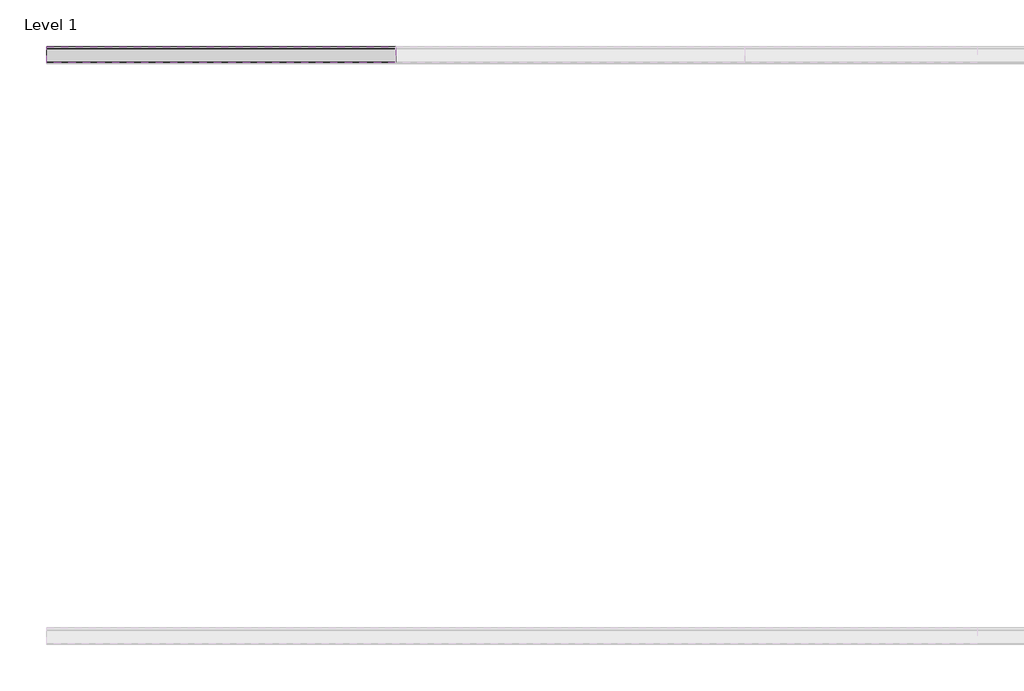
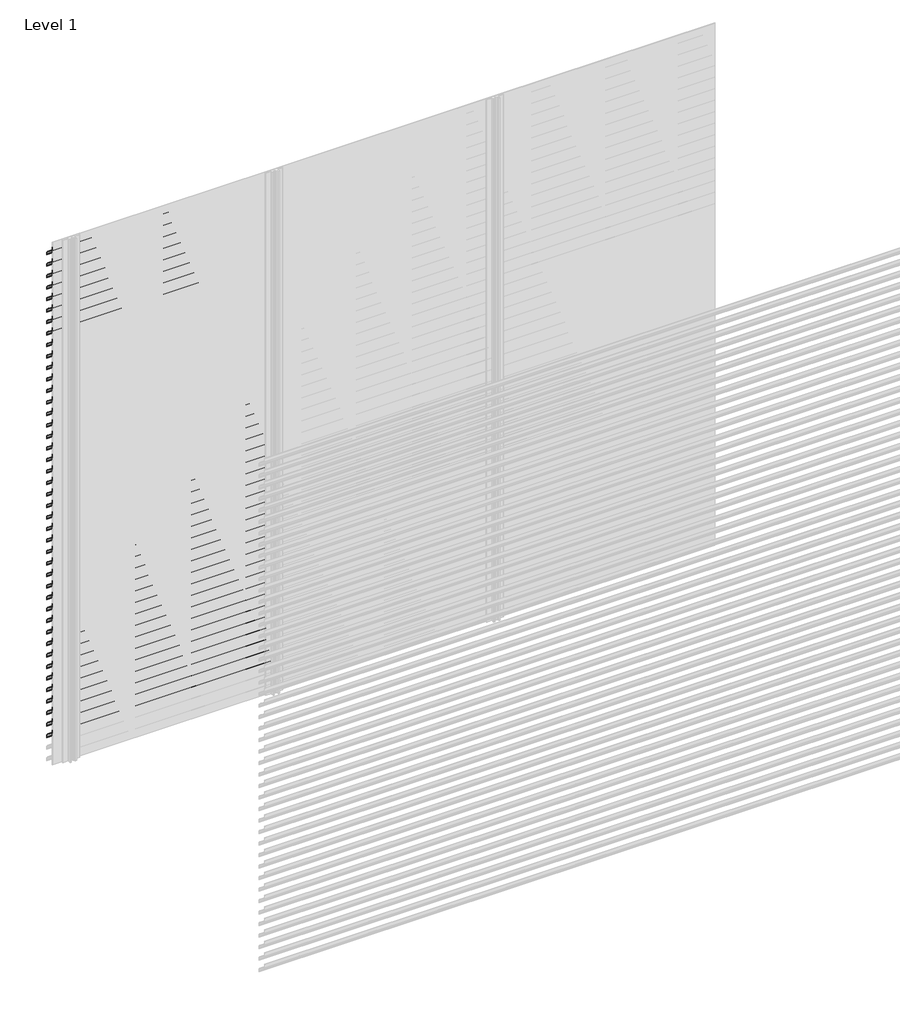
# One storey, part 118 of 540: 43 proxies.
"""IFC4 building model written with IfcOpenShell, lengths in millimetres."""

from ifc_helpers import new_model, si_unit, point, frame, frame_2d, origin, place, context, project, spatial, polyline, circle_curve, trimmed, segment, composite_curve, outline, extrude, element, save

model = new_model("IFC4")

# Units and contexts
model_context = context("Model", 3, world=origin())
ifc_project = project(units=[si_unit("LENGTHUNIT", "METRE", prefix="MILLI")], contexts=[model_context])

# Site, building, storey
site = spatial("IfcSite", under=ifc_project)
building = spatial("IfcBuilding", under=site)
storey = spatial("IfcBuildingStorey", under=building, Name="Level 1", Elevation=0.0)

# Proxies
placement = place(None, origin())
element("IfcBuildingElementProxy", 1, Name="Wall Sweeps", at=placement, inside=storey, context=model_context, shape_type="SweptSolid", body=[
    extrude(outline(composite_curve([segment(trimmed(circle_curve(frame_2d((7017.5825412, 2899.7676769)), 26.4944656), [point((7034.5447587, 2920.1205608))], [point((7044.0270068, 2901.3946208))], False, "CARTESIAN"), True, "CONTINUOUS"), segment(polyline([(7044.0270068, 2901.3946208), (7044.0270068, 2893.5), (7042.7770068, 2894.2216933), (7042.7770068, 2899.7676769)]), True, "CONTINUOUS"), segment(trimmed(circle_curve(frame_2d((7017.5825412, 2899.7676769)), 25.1944656), [point((7042.7770068, 2899.7676769))], [point((7033.7545017, 2919.086807))], True, "CARTESIAN"), True, "CONTINUOUS"), segment(polyline([(7033.7545017, 2919.086807), (6989.0270068, 2950.3158044), (6989.0270068, 2970.0), (6990.2770068, 2970.0), (6990.2770068, 2951.0285629), (7034.5447587, 2920.1205608)]), True, "CONTINUOUS")], self_intersect=False)), frame((89466.6208097, 0.0, 0.0), z_axis=(1.0, 0.0, 0.0), x_axis=(0.0, 1.0, 0.0)), (0.0, 0.0, 1.0), 1200.0000002),
])
element("IfcBuildingElementProxy", 2, Name="Wall Sweeps", at=placement, inside=storey, context=model_context, shape_type="SweptSolid", body=[
    extrude(outline(composite_curve([segment(trimmed(circle_curve(frame_2d((7017.5825412, 2833.7676769)), 26.4944656), [point((7034.5447587, 2854.1205608))], [point((7044.0270068, 2835.3946208))], False, "CARTESIAN"), True, "CONTINUOUS"), segment(polyline([(7044.0270068, 2835.3946208), (7044.0270068, 2827.5), (7042.7770068, 2828.2216933), (7042.7770068, 2833.7676769)]), True, "CONTINUOUS"), segment(trimmed(circle_curve(frame_2d((7017.5825412, 2833.7676769)), 25.1944656), [point((7042.7770068, 2833.7676769))], [point((7033.7545017, 2853.086807))], True, "CARTESIAN"), True, "CONTINUOUS"), segment(polyline([(7033.7545017, 2853.086807), (6989.0270068, 2884.3158044), (6989.0270068, 2904.0), (6990.2770068, 2904.0), (6990.2770068, 2885.0285629), (7034.5447587, 2854.1205608)]), True, "CONTINUOUS")], self_intersect=False)), frame((89466.6208097, 0.0, 0.0), z_axis=(1.0, 0.0, 0.0), x_axis=(0.0, 1.0, 0.0)), (0.0, 0.0, 1.0), 1200.0000002),
])
element("IfcBuildingElementProxy", 3, Name="Wall Sweeps", at=placement, inside=storey, context=model_context, shape_type="SweptSolid", body=[
    extrude(outline(composite_curve([segment(trimmed(circle_curve(frame_2d((7017.5825412, 2767.7676769)), 26.4944656), [point((7034.5447587, 2788.1205608))], [point((7044.0270068, 2769.3946208))], False, "CARTESIAN"), True, "CONTINUOUS"), segment(polyline([(7044.0270068, 2769.3946208), (7044.0270068, 2761.5), (7042.7770068, 2762.2216933), (7042.7770068, 2767.7676769)]), True, "CONTINUOUS"), segment(trimmed(circle_curve(frame_2d((7017.5825412, 2767.7676769)), 25.1944656), [point((7042.7770068, 2767.7676769))], [point((7033.7545017, 2787.086807))], True, "CARTESIAN"), True, "CONTINUOUS"), segment(polyline([(7033.7545017, 2787.086807), (6989.0270068, 2818.3158044), (6989.0270068, 2838.0), (6990.2770068, 2838.0), (6990.2770068, 2819.0285629), (7034.5447587, 2788.1205608)]), True, "CONTINUOUS")], self_intersect=False)), frame((89466.6208097, 0.0, 0.0), z_axis=(1.0, 0.0, 0.0), x_axis=(0.0, 1.0, 0.0)), (0.0, 0.0, 1.0), 1200.0000002),
])
element("IfcBuildingElementProxy", 4, Name="Wall Sweeps", at=placement, inside=storey, context=model_context, shape_type="SweptSolid", body=[
    extrude(outline(composite_curve([segment(trimmed(circle_curve(frame_2d((7017.5825412, 2701.7676769)), 26.4944656), [point((7034.5447587, 2722.1205608))], [point((7044.0270068, 2703.3946208))], False, "CARTESIAN"), True, "CONTINUOUS"), segment(polyline([(7044.0270068, 2703.3946208), (7044.0270068, 2695.5), (7042.7770068, 2696.2216933), (7042.7770068, 2701.7676769)]), True, "CONTINUOUS"), segment(trimmed(circle_curve(frame_2d((7017.5825412, 2701.7676769)), 25.1944656), [point((7042.7770068, 2701.7676769))], [point((7033.7545017, 2721.086807))], True, "CARTESIAN"), True, "CONTINUOUS"), segment(polyline([(7033.7545017, 2721.086807), (6989.0270068, 2752.3158044), (6989.0270068, 2772.0), (6990.2770068, 2772.0), (6990.2770068, 2753.0285629), (7034.5447587, 2722.1205608)]), True, "CONTINUOUS")], self_intersect=False)), frame((89466.6208097, 0.0, 0.0), z_axis=(1.0, 0.0, 0.0), x_axis=(0.0, 1.0, 0.0)), (0.0, 0.0, 1.0), 1200.0000002),
])
element("IfcBuildingElementProxy", 5, Name="Wall Sweeps", at=placement, inside=storey, context=model_context, shape_type="SweptSolid", body=[
    extrude(outline(composite_curve([segment(trimmed(circle_curve(frame_2d((7017.5825412, 2635.7676769)), 26.4944656), [point((7034.5447587, 2656.1205608))], [point((7044.0270068, 2637.3946208))], False, "CARTESIAN"), True, "CONTINUOUS"), segment(polyline([(7044.0270068, 2637.3946208), (7044.0270068, 2629.5), (7042.7770068, 2630.2216933), (7042.7770068, 2635.7676769)]), True, "CONTINUOUS"), segment(trimmed(circle_curve(frame_2d((7017.5825412, 2635.7676769)), 25.1944656), [point((7042.7770068, 2635.7676769))], [point((7033.7545017, 2655.086807))], True, "CARTESIAN"), True, "CONTINUOUS"), segment(polyline([(7033.7545017, 2655.086807), (6989.0270068, 2686.3158044), (6989.0270068, 2706.0), (6990.2770068, 2706.0), (6990.2770068, 2687.0285629), (7034.5447587, 2656.1205608)]), True, "CONTINUOUS")], self_intersect=False)), frame((89466.6208097, 0.0, 0.0), z_axis=(1.0, 0.0, 0.0), x_axis=(0.0, 1.0, 0.0)), (0.0, 0.0, 1.0), 1200.0000002),
])
element("IfcBuildingElementProxy", 6, Name="Wall Sweeps", at=placement, inside=storey, context=model_context, shape_type="SweptSolid", body=[
    extrude(outline(composite_curve([segment(trimmed(circle_curve(frame_2d((7017.5825412, 2569.7676769)), 26.4944656), [point((7034.5447587, 2590.1205608))], [point((7044.0270068, 2571.3946208))], False, "CARTESIAN"), True, "CONTINUOUS"), segment(polyline([(7044.0270068, 2571.3946208), (7044.0270068, 2563.5), (7042.7770068, 2564.2216933), (7042.7770068, 2569.7676769)]), True, "CONTINUOUS"), segment(trimmed(circle_curve(frame_2d((7017.5825412, 2569.7676769)), 25.1944656), [point((7042.7770068, 2569.7676769))], [point((7033.7545017, 2589.086807))], True, "CARTESIAN"), True, "CONTINUOUS"), segment(polyline([(7033.7545017, 2589.086807), (6989.0270068, 2620.3158044), (6989.0270068, 2640.0), (6990.2770068, 2640.0), (6990.2770068, 2621.0285629), (7034.5447587, 2590.1205608)]), True, "CONTINUOUS")], self_intersect=False)), frame((89466.6208097, 0.0, 0.0), z_axis=(1.0, 0.0, 0.0), x_axis=(0.0, 1.0, 0.0)), (0.0, 0.0, 1.0), 1200.0000002),
])
element("IfcBuildingElementProxy", 7, Name="Wall Sweeps", at=placement, inside=storey, context=model_context, shape_type="SweptSolid", body=[
    extrude(outline(composite_curve([segment(trimmed(circle_curve(frame_2d((7017.5825412, 2503.7676769)), 26.4944656), [point((7034.5447587, 2524.1205608))], [point((7044.0270068, 2505.3946208))], False, "CARTESIAN"), True, "CONTINUOUS"), segment(polyline([(7044.0270068, 2505.3946208), (7044.0270068, 2497.5), (7042.7770068, 2498.2216933), (7042.7770068, 2503.7676769)]), True, "CONTINUOUS"), segment(trimmed(circle_curve(frame_2d((7017.5825412, 2503.7676769)), 25.1944656), [point((7042.7770068, 2503.7676769))], [point((7033.7545017, 2523.086807))], True, "CARTESIAN"), True, "CONTINUOUS"), segment(polyline([(7033.7545017, 2523.086807), (6989.0270068, 2554.3158044), (6989.0270068, 2574.0), (6990.2770068, 2574.0), (6990.2770068, 2555.0285629), (7034.5447587, 2524.1205608)]), True, "CONTINUOUS")], self_intersect=False)), frame((89466.6208097, 0.0, 0.0), z_axis=(1.0, 0.0, 0.0), x_axis=(0.0, 1.0, 0.0)), (0.0, 0.0, 1.0), 1200.0000002),
])
element("IfcBuildingElementProxy", 8, Name="Wall Sweeps", at=placement, inside=storey, context=model_context, shape_type="SweptSolid", body=[
    extrude(outline(composite_curve([segment(trimmed(circle_curve(frame_2d((7017.5825412, 2437.7676769)), 26.4944656), [point((7034.5447587, 2458.1205608))], [point((7044.0270068, 2439.3946208))], False, "CARTESIAN"), True, "CONTINUOUS"), segment(polyline([(7044.0270068, 2439.3946208), (7044.0270068, 2431.5), (7042.7770068, 2432.2216933), (7042.7770068, 2437.7676769)]), True, "CONTINUOUS"), segment(trimmed(circle_curve(frame_2d((7017.5825412, 2437.7676769)), 25.1944656), [point((7042.7770068, 2437.7676769))], [point((7033.7545017, 2457.086807))], True, "CARTESIAN"), True, "CONTINUOUS"), segment(polyline([(7033.7545017, 2457.086807), (6989.0270068, 2488.3158044), (6989.0270068, 2508.0), (6990.2770068, 2508.0), (6990.2770068, 2489.0285629), (7034.5447587, 2458.1205608)]), True, "CONTINUOUS")], self_intersect=False)), frame((89466.6208097, 0.0, 0.0), z_axis=(1.0, 0.0, 0.0), x_axis=(0.0, 1.0, 0.0)), (0.0, 0.0, 1.0), 1200.0000002),
])
element("IfcBuildingElementProxy", 9, Name="Wall Sweeps", at=placement, inside=storey, context=model_context, shape_type="SweptSolid", body=[
    extrude(outline(composite_curve([segment(trimmed(circle_curve(frame_2d((7017.5825412, 2371.7676769)), 26.4944656), [point((7034.5447587, 2392.1205608))], [point((7044.0270068, 2373.3946208))], False, "CARTESIAN"), True, "CONTINUOUS"), segment(polyline([(7044.0270068, 2373.3946208), (7044.0270068, 2365.5), (7042.7770068, 2366.2216933), (7042.7770068, 2371.7676769)]), True, "CONTINUOUS"), segment(trimmed(circle_curve(frame_2d((7017.5825412, 2371.7676769)), 25.1944656), [point((7042.7770068, 2371.7676769))], [point((7033.7545017, 2391.086807))], True, "CARTESIAN"), True, "CONTINUOUS"), segment(polyline([(7033.7545017, 2391.086807), (6989.0270068, 2422.3158044), (6989.0270068, 2442.0), (6990.2770068, 2442.0), (6990.2770068, 2423.0285629), (7034.5447587, 2392.1205608)]), True, "CONTINUOUS")], self_intersect=False)), frame((89466.6208097, 0.0, 0.0), z_axis=(1.0, 0.0, 0.0), x_axis=(0.0, 1.0, 0.0)), (0.0, 0.0, 1.0), 1200.0000002),
])
element("IfcBuildingElementProxy", 10, Name="Wall Sweeps", at=placement, inside=storey, context=model_context, shape_type="SweptSolid", body=[
    extrude(outline(composite_curve([segment(trimmed(circle_curve(frame_2d((7017.5825412, 2305.7676769)), 26.4944656), [point((7034.5447587, 2326.1205608))], [point((7044.0270068, 2307.3946208))], False, "CARTESIAN"), True, "CONTINUOUS"), segment(polyline([(7044.0270068, 2307.3946208), (7044.0270068, 2299.5), (7042.7770068, 2300.2216933), (7042.7770068, 2305.7676769)]), True, "CONTINUOUS"), segment(trimmed(circle_curve(frame_2d((7017.5825412, 2305.7676769)), 25.1944656), [point((7042.7770068, 2305.7676769))], [point((7033.7545017, 2325.086807))], True, "CARTESIAN"), True, "CONTINUOUS"), segment(polyline([(7033.7545017, 2325.086807), (6989.0270068, 2356.3158044), (6989.0270068, 2376.0), (6990.2770068, 2376.0), (6990.2770068, 2357.0285629), (7034.5447587, 2326.1205608)]), True, "CONTINUOUS")], self_intersect=False)), frame((89466.6208097, 0.0, 0.0), z_axis=(1.0, 0.0, 0.0), x_axis=(0.0, 1.0, 0.0)), (0.0, 0.0, 1.0), 1200.0000002),
])
element("IfcBuildingElementProxy", 11, Name="Wall Sweeps", at=placement, inside=storey, context=model_context, shape_type="SweptSolid", body=[
    extrude(outline(composite_curve([segment(trimmed(circle_curve(frame_2d((7017.5825412, 2239.7676769)), 26.4944656), [point((7034.5447587, 2260.1205608))], [point((7044.0270068, 2241.3946208))], False, "CARTESIAN"), True, "CONTINUOUS"), segment(polyline([(7044.0270068, 2241.3946208), (7044.0270068, 2233.5), (7042.7770068, 2234.2216933), (7042.7770068, 2239.7676769)]), True, "CONTINUOUS"), segment(trimmed(circle_curve(frame_2d((7017.5825412, 2239.7676769)), 25.1944656), [point((7042.7770068, 2239.7676769))], [point((7033.7545017, 2259.086807))], True, "CARTESIAN"), True, "CONTINUOUS"), segment(polyline([(7033.7545017, 2259.086807), (6989.0270068, 2290.3158044), (6989.0270068, 2310.0), (6990.2770068, 2310.0), (6990.2770068, 2291.0285629), (7034.5447587, 2260.1205608)]), True, "CONTINUOUS")], self_intersect=False)), frame((89466.6208097, 0.0, 0.0), z_axis=(1.0, 0.0, 0.0), x_axis=(0.0, 1.0, 0.0)), (0.0, 0.0, 1.0), 1200.0000002),
])
element("IfcBuildingElementProxy", 12, Name="Wall Sweeps", at=placement, inside=storey, context=model_context, shape_type="SweptSolid", body=[
    extrude(outline(composite_curve([segment(trimmed(circle_curve(frame_2d((7017.5825412, 2173.7676769)), 26.4944656), [point((7034.5447587, 2194.1205608))], [point((7044.0270068, 2175.3946208))], False, "CARTESIAN"), True, "CONTINUOUS"), segment(polyline([(7044.0270068, 2175.3946208), (7044.0270068, 2167.5), (7042.7770068, 2168.2216933), (7042.7770068, 2173.7676769)]), True, "CONTINUOUS"), segment(trimmed(circle_curve(frame_2d((7017.5825412, 2173.7676769)), 25.1944656), [point((7042.7770068, 2173.7676769))], [point((7033.7545017, 2193.086807))], True, "CARTESIAN"), True, "CONTINUOUS"), segment(polyline([(7033.7545017, 2193.086807), (6989.0270068, 2224.3158044), (6989.0270068, 2244.0), (6990.2770068, 2244.0), (6990.2770068, 2225.0285629), (7034.5447587, 2194.1205608)]), True, "CONTINUOUS")], self_intersect=False)), frame((89466.6208097, 0.0, 0.0), z_axis=(1.0, 0.0, 0.0), x_axis=(0.0, 1.0, 0.0)), (0.0, 0.0, 1.0), 1200.0000002),
])
element("IfcBuildingElementProxy", 13, Name="Wall Sweeps", at=placement, inside=storey, context=model_context, shape_type="SweptSolid", body=[
    extrude(outline(composite_curve([segment(trimmed(circle_curve(frame_2d((7017.5825412, 2107.7676769)), 26.4944656), [point((7034.5447587, 2128.1205608))], [point((7044.0270068, 2109.3946208))], False, "CARTESIAN"), True, "CONTINUOUS"), segment(polyline([(7044.0270068, 2109.3946208), (7044.0270068, 2101.5), (7042.7770068, 2102.2216933), (7042.7770068, 2107.7676769)]), True, "CONTINUOUS"), segment(trimmed(circle_curve(frame_2d((7017.5825412, 2107.7676769)), 25.1944656), [point((7042.7770068, 2107.7676769))], [point((7033.7545017, 2127.086807))], True, "CARTESIAN"), True, "CONTINUOUS"), segment(polyline([(7033.7545017, 2127.086807), (6989.0270068, 2158.3158044), (6989.0270068, 2178.0), (6990.2770068, 2178.0), (6990.2770068, 2159.0285629), (7034.5447587, 2128.1205608)]), True, "CONTINUOUS")], self_intersect=False)), frame((89466.6208097, 0.0, 0.0), z_axis=(1.0, 0.0, 0.0), x_axis=(0.0, 1.0, 0.0)), (0.0, 0.0, 1.0), 1200.0000002),
])
element("IfcBuildingElementProxy", 14, Name="Wall Sweeps", at=placement, inside=storey, context=model_context, shape_type="SweptSolid", body=[
    extrude(outline(composite_curve([segment(trimmed(circle_curve(frame_2d((7017.5825412, 2041.7676769)), 26.4944656), [point((7034.5447587, 2062.1205608))], [point((7044.0270068, 2043.3946208))], False, "CARTESIAN"), True, "CONTINUOUS"), segment(polyline([(7044.0270068, 2043.3946208), (7044.0270068, 2035.5), (7042.7770068, 2036.2216933), (7042.7770068, 2041.7676769)]), True, "CONTINUOUS"), segment(trimmed(circle_curve(frame_2d((7017.5825412, 2041.7676769)), 25.1944656), [point((7042.7770068, 2041.7676769))], [point((7033.7545017, 2061.086807))], True, "CARTESIAN"), True, "CONTINUOUS"), segment(polyline([(7033.7545017, 2061.086807), (6989.0270068, 2092.3158044), (6989.0270068, 2112.0), (6990.2770068, 2112.0), (6990.2770068, 2093.0285629), (7034.5447587, 2062.1205608)]), True, "CONTINUOUS")], self_intersect=False)), frame((89466.6208097, 0.0, 0.0), z_axis=(1.0, 0.0, 0.0), x_axis=(0.0, 1.0, 0.0)), (0.0, 0.0, 1.0), 1200.0000002),
])
element("IfcBuildingElementProxy", 15, Name="Wall Sweeps", at=placement, inside=storey, context=model_context, shape_type="SweptSolid", body=[
    extrude(outline(composite_curve([segment(trimmed(circle_curve(frame_2d((7017.5825412, 1975.7676769)), 26.4944656), [point((7034.5447587, 1996.1205608))], [point((7044.0270068, 1977.3946208))], False, "CARTESIAN"), True, "CONTINUOUS"), segment(polyline([(7044.0270068, 1977.3946208), (7044.0270068, 1969.5), (7042.7770068, 1970.2216933), (7042.7770068, 1975.7676769)]), True, "CONTINUOUS"), segment(trimmed(circle_curve(frame_2d((7017.5825412, 1975.7676769)), 25.1944656), [point((7042.7770068, 1975.7676769))], [point((7033.7545017, 1995.086807))], True, "CARTESIAN"), True, "CONTINUOUS"), segment(polyline([(7033.7545017, 1995.086807), (6989.0270068, 2026.3158044), (6989.0270068, 2046.0), (6990.2770068, 2046.0), (6990.2770068, 2027.0285629), (7034.5447587, 1996.1205608)]), True, "CONTINUOUS")], self_intersect=False)), frame((89466.6208097, 0.0, 0.0), z_axis=(1.0, 0.0, 0.0), x_axis=(0.0, 1.0, 0.0)), (0.0, 0.0, 1.0), 1200.0000002),
])
element("IfcBuildingElementProxy", 16, Name="Wall Sweeps", at=placement, inside=storey, context=model_context, shape_type="SweptSolid", body=[
    extrude(outline(composite_curve([segment(trimmed(circle_curve(frame_2d((7017.5825412, 1909.7676769)), 26.4944656), [point((7034.5447587, 1930.1205608))], [point((7044.0270068, 1911.3946208))], False, "CARTESIAN"), True, "CONTINUOUS"), segment(polyline([(7044.0270068, 1911.3946208), (7044.0270068, 1903.5), (7042.7770068, 1904.2216933), (7042.7770068, 1909.7676769)]), True, "CONTINUOUS"), segment(trimmed(circle_curve(frame_2d((7017.5825412, 1909.7676769)), 25.1944656), [point((7042.7770068, 1909.7676769))], [point((7033.7545017, 1929.086807))], True, "CARTESIAN"), True, "CONTINUOUS"), segment(polyline([(7033.7545017, 1929.086807), (6989.0270068, 1960.3158044), (6989.0270068, 1980.0), (6990.2770068, 1980.0), (6990.2770068, 1961.0285629), (7034.5447587, 1930.1205608)]), True, "CONTINUOUS")], self_intersect=False)), frame((89466.6208097, 0.0, 0.0), z_axis=(1.0, 0.0, 0.0), x_axis=(0.0, 1.0, 0.0)), (0.0, 0.0, 1.0), 1200.0000002),
])
element("IfcBuildingElementProxy", 17, Name="Wall Sweeps", at=placement, inside=storey, context=model_context, shape_type="SweptSolid", body=[
    extrude(outline(composite_curve([segment(trimmed(circle_curve(frame_2d((7017.5825412, 1843.7676769)), 26.4944656), [point((7034.5447587, 1864.1205608))], [point((7044.0270068, 1845.3946208))], False, "CARTESIAN"), True, "CONTINUOUS"), segment(polyline([(7044.0270068, 1845.3946208), (7044.0270068, 1837.5), (7042.7770068, 1838.2216933), (7042.7770068, 1843.7676769)]), True, "CONTINUOUS"), segment(trimmed(circle_curve(frame_2d((7017.5825412, 1843.7676769)), 25.1944656), [point((7042.7770068, 1843.7676769))], [point((7033.7545017, 1863.086807))], True, "CARTESIAN"), True, "CONTINUOUS"), segment(polyline([(7033.7545017, 1863.086807), (6989.0270068, 1894.3158044), (6989.0270068, 1914.0), (6990.2770068, 1914.0), (6990.2770068, 1895.0285629), (7034.5447587, 1864.1205608)]), True, "CONTINUOUS")], self_intersect=False)), frame((89466.6208097, 0.0, 0.0), z_axis=(1.0, 0.0, 0.0), x_axis=(0.0, 1.0, 0.0)), (0.0, 0.0, 1.0), 1200.0000002),
])
element("IfcBuildingElementProxy", 18, Name="Wall Sweeps", at=placement, inside=storey, context=model_context, shape_type="SweptSolid", body=[
    extrude(outline(composite_curve([segment(trimmed(circle_curve(frame_2d((7017.5825412, 1777.7676769)), 26.4944656), [point((7034.5447587, 1798.1205608))], [point((7044.0270068, 1779.3946208))], False, "CARTESIAN"), True, "CONTINUOUS"), segment(polyline([(7044.0270068, 1779.3946208), (7044.0270068, 1771.5), (7042.7770068, 1772.2216933), (7042.7770068, 1777.7676769)]), True, "CONTINUOUS"), segment(trimmed(circle_curve(frame_2d((7017.5825412, 1777.7676769)), 25.1944656), [point((7042.7770068, 1777.7676769))], [point((7033.7545017, 1797.086807))], True, "CARTESIAN"), True, "CONTINUOUS"), segment(polyline([(7033.7545017, 1797.086807), (6989.0270068, 1828.3158044), (6989.0270068, 1848.0), (6990.2770068, 1848.0), (6990.2770068, 1829.0285629), (7034.5447587, 1798.1205608)]), True, "CONTINUOUS")], self_intersect=False)), frame((89466.6208097, 0.0, 0.0), z_axis=(1.0, 0.0, 0.0), x_axis=(0.0, 1.0, 0.0)), (0.0, 0.0, 1.0), 1200.0000002),
])
element("IfcBuildingElementProxy", 19, Name="Wall Sweeps", at=placement, inside=storey, context=model_context, shape_type="SweptSolid", body=[
    extrude(outline(composite_curve([segment(trimmed(circle_curve(frame_2d((7017.5825412, 1711.7676769)), 26.4944656), [point((7034.5447587, 1732.1205608))], [point((7044.0270068, 1713.3946208))], False, "CARTESIAN"), True, "CONTINUOUS"), segment(polyline([(7044.0270068, 1713.3946208), (7044.0270068, 1705.5), (7042.7770068, 1706.2216933), (7042.7770068, 1711.7676769)]), True, "CONTINUOUS"), segment(trimmed(circle_curve(frame_2d((7017.5825412, 1711.7676769)), 25.1944656), [point((7042.7770068, 1711.7676769))], [point((7033.7545017, 1731.086807))], True, "CARTESIAN"), True, "CONTINUOUS"), segment(polyline([(7033.7545017, 1731.086807), (6989.0270068, 1762.3158044), (6989.0270068, 1782.0), (6990.2770068, 1782.0), (6990.2770068, 1763.0285629), (7034.5447587, 1732.1205608)]), True, "CONTINUOUS")], self_intersect=False)), frame((89466.6208097, 0.0, 0.0), z_axis=(1.0, 0.0, 0.0), x_axis=(0.0, 1.0, 0.0)), (0.0, 0.0, 1.0), 1200.0000002),
])
element("IfcBuildingElementProxy", 20, Name="Wall Sweeps", at=placement, inside=storey, context=model_context, shape_type="SweptSolid", body=[
    extrude(outline(composite_curve([segment(trimmed(circle_curve(frame_2d((7017.5825412, 1645.7676769)), 26.4944656), [point((7034.5447587, 1666.1205608))], [point((7044.0270068, 1647.3946208))], False, "CARTESIAN"), True, "CONTINUOUS"), segment(polyline([(7044.0270068, 1647.3946208), (7044.0270068, 1639.5), (7042.7770068, 1640.2216933), (7042.7770068, 1645.7676769)]), True, "CONTINUOUS"), segment(trimmed(circle_curve(frame_2d((7017.5825412, 1645.7676769)), 25.1944656), [point((7042.7770068, 1645.7676769))], [point((7033.7545017, 1665.086807))], True, "CARTESIAN"), True, "CONTINUOUS"), segment(polyline([(7033.7545017, 1665.086807), (6989.0270068, 1696.3158044), (6989.0270068, 1716.0), (6990.2770068, 1716.0), (6990.2770068, 1697.0285629), (7034.5447587, 1666.1205608)]), True, "CONTINUOUS")], self_intersect=False)), frame((89466.6208097, 0.0, 0.0), z_axis=(1.0, 0.0, 0.0), x_axis=(0.0, 1.0, 0.0)), (0.0, 0.0, 1.0), 1200.0000002),
])
element("IfcBuildingElementProxy", 21, Name="Wall Sweeps", at=placement, inside=storey, context=model_context, shape_type="SweptSolid", body=[
    extrude(outline(composite_curve([segment(trimmed(circle_curve(frame_2d((7017.5825412, 1579.7676769)), 26.4944656), [point((7034.5447587, 1600.1205608))], [point((7044.0270068, 1581.3946208))], False, "CARTESIAN"), True, "CONTINUOUS"), segment(polyline([(7044.0270068, 1581.3946208), (7044.0270068, 1573.5), (7042.7770068, 1574.2216933), (7042.7770068, 1579.7676769)]), True, "CONTINUOUS"), segment(trimmed(circle_curve(frame_2d((7017.5825412, 1579.7676769)), 25.1944656), [point((7042.7770068, 1579.7676769))], [point((7033.7545017, 1599.086807))], True, "CARTESIAN"), True, "CONTINUOUS"), segment(polyline([(7033.7545017, 1599.086807), (6989.0270068, 1630.3158044), (6989.0270068, 1650.0), (6990.2770068, 1650.0), (6990.2770068, 1631.0285629), (7034.5447587, 1600.1205608)]), True, "CONTINUOUS")], self_intersect=False)), frame((89466.6208097, 0.0, 0.0), z_axis=(1.0, 0.0, 0.0), x_axis=(0.0, 1.0, 0.0)), (0.0, 0.0, 1.0), 1200.0000002),
])
element("IfcBuildingElementProxy", 22, Name="Wall Sweeps", at=placement, inside=storey, context=model_context, shape_type="SweptSolid", body=[
    extrude(outline(composite_curve([segment(trimmed(circle_curve(frame_2d((7017.5825412, 1513.7676769)), 26.4944656), [point((7034.5447587, 1534.1205608))], [point((7044.0270068, 1515.3946208))], False, "CARTESIAN"), True, "CONTINUOUS"), segment(polyline([(7044.0270068, 1515.3946208), (7044.0270068, 1507.5), (7042.7770068, 1508.2216933), (7042.7770068, 1513.7676769)]), True, "CONTINUOUS"), segment(trimmed(circle_curve(frame_2d((7017.5825412, 1513.7676769)), 25.1944656), [point((7042.7770068, 1513.7676769))], [point((7033.7545017, 1533.086807))], True, "CARTESIAN"), True, "CONTINUOUS"), segment(polyline([(7033.7545017, 1533.086807), (6989.0270068, 1564.3158044), (6989.0270068, 1584.0), (6990.2770068, 1584.0), (6990.2770068, 1565.0285629), (7034.5447587, 1534.1205608)]), True, "CONTINUOUS")], self_intersect=False)), frame((89466.6208097, 0.0, 0.0), z_axis=(1.0, 0.0, 0.0), x_axis=(0.0, 1.0, 0.0)), (0.0, 0.0, 1.0), 1200.0000002),
])
element("IfcBuildingElementProxy", 23, Name="Wall Sweeps", at=placement, inside=storey, context=model_context, shape_type="SweptSolid", body=[
    extrude(outline(composite_curve([segment(trimmed(circle_curve(frame_2d((7017.5825412, 1447.7676769)), 26.4944656), [point((7034.5447587, 1468.1205608))], [point((7044.0270068, 1449.3946208))], False, "CARTESIAN"), True, "CONTINUOUS"), segment(polyline([(7044.0270068, 1449.3946208), (7044.0270068, 1441.5), (7042.7770068, 1442.2216933), (7042.7770068, 1447.7676769)]), True, "CONTINUOUS"), segment(trimmed(circle_curve(frame_2d((7017.5825412, 1447.7676769)), 25.1944656), [point((7042.7770068, 1447.7676769))], [point((7033.7545017, 1467.086807))], True, "CARTESIAN"), True, "CONTINUOUS"), segment(polyline([(7033.7545017, 1467.086807), (6989.0270068, 1498.3158044), (6989.0270068, 1518.0), (6990.2770068, 1518.0), (6990.2770068, 1499.0285629), (7034.5447587, 1468.1205608)]), True, "CONTINUOUS")], self_intersect=False)), frame((89466.6208097, 0.0, 0.0), z_axis=(1.0, 0.0, 0.0), x_axis=(0.0, 1.0, 0.0)), (0.0, 0.0, 1.0), 1200.0000002),
])
element("IfcBuildingElementProxy", 24, Name="Wall Sweeps", at=placement, inside=storey, context=model_context, shape_type="SweptSolid", body=[
    extrude(outline(composite_curve([segment(trimmed(circle_curve(frame_2d((7017.5825412, 1381.7676769)), 26.4944656), [point((7034.5447587, 1402.1205608))], [point((7044.0270068, 1383.3946208))], False, "CARTESIAN"), True, "CONTINUOUS"), segment(polyline([(7044.0270068, 1383.3946208), (7044.0270068, 1375.5), (7042.7770068, 1376.2216933), (7042.7770068, 1381.7676769)]), True, "CONTINUOUS"), segment(trimmed(circle_curve(frame_2d((7017.5825412, 1381.7676769)), 25.1944656), [point((7042.7770068, 1381.7676769))], [point((7033.7545017, 1401.086807))], True, "CARTESIAN"), True, "CONTINUOUS"), segment(polyline([(7033.7545017, 1401.086807), (6989.0270068, 1432.3158044), (6989.0270068, 1452.0), (6990.2770068, 1452.0), (6990.2770068, 1433.0285629), (7034.5447587, 1402.1205608)]), True, "CONTINUOUS")], self_intersect=False)), frame((89466.6208097, 0.0, 0.0), z_axis=(1.0, 0.0, 0.0), x_axis=(0.0, 1.0, 0.0)), (0.0, 0.0, 1.0), 1200.0000002),
])
element("IfcBuildingElementProxy", 25, Name="Wall Sweeps", at=placement, inside=storey, context=model_context, shape_type="SweptSolid", body=[
    extrude(outline(composite_curve([segment(trimmed(circle_curve(frame_2d((7017.5825412, 1315.7676769)), 26.4944656), [point((7034.5447587, 1336.1205608))], [point((7044.0270068, 1317.3946208))], False, "CARTESIAN"), True, "CONTINUOUS"), segment(polyline([(7044.0270068, 1317.3946208), (7044.0270068, 1309.5), (7042.7770068, 1310.2216933), (7042.7770068, 1315.7676769)]), True, "CONTINUOUS"), segment(trimmed(circle_curve(frame_2d((7017.5825412, 1315.7676769)), 25.1944656), [point((7042.7770068, 1315.7676769))], [point((7033.7545017, 1335.086807))], True, "CARTESIAN"), True, "CONTINUOUS"), segment(polyline([(7033.7545017, 1335.086807), (6989.0270068, 1366.3158044), (6989.0270068, 1386.0), (6990.2770068, 1386.0), (6990.2770068, 1367.0285629), (7034.5447587, 1336.1205608)]), True, "CONTINUOUS")], self_intersect=False)), frame((89466.6208097, 0.0, 0.0), z_axis=(1.0, 0.0, 0.0), x_axis=(0.0, 1.0, 0.0)), (0.0, 0.0, 1.0), 1200.0000002),
])
element("IfcBuildingElementProxy", 26, Name="Wall Sweeps", at=placement, inside=storey, context=model_context, shape_type="SweptSolid", body=[
    extrude(outline(composite_curve([segment(trimmed(circle_curve(frame_2d((7017.5825412, 1249.7676769)), 26.4944656), [point((7034.5447587, 1270.1205608))], [point((7044.0270068, 1251.3946208))], False, "CARTESIAN"), True, "CONTINUOUS"), segment(polyline([(7044.0270068, 1251.3946208), (7044.0270068, 1243.5), (7042.7770068, 1244.2216933), (7042.7770068, 1249.7676769)]), True, "CONTINUOUS"), segment(trimmed(circle_curve(frame_2d((7017.5825412, 1249.7676769)), 25.1944656), [point((7042.7770068, 1249.7676769))], [point((7033.7545017, 1269.086807))], True, "CARTESIAN"), True, "CONTINUOUS"), segment(polyline([(7033.7545017, 1269.086807), (6989.0270068, 1300.3158044), (6989.0270068, 1320.0), (6990.2770068, 1320.0), (6990.2770068, 1301.0285629), (7034.5447587, 1270.1205608)]), True, "CONTINUOUS")], self_intersect=False)), frame((89466.6208097, 0.0, 0.0), z_axis=(1.0, 0.0, 0.0), x_axis=(0.0, 1.0, 0.0)), (0.0, 0.0, 1.0), 1200.0000002),
])
element("IfcBuildingElementProxy", 27, Name="Wall Sweeps", at=placement, inside=storey, context=model_context, shape_type="SweptSolid", body=[
    extrude(outline(composite_curve([segment(trimmed(circle_curve(frame_2d((7017.5825412, 1183.7676769)), 26.4944656), [point((7034.5447587, 1204.1205608))], [point((7044.0270068, 1185.3946208))], False, "CARTESIAN"), True, "CONTINUOUS"), segment(polyline([(7044.0270068, 1185.3946208), (7044.0270068, 1177.5), (7042.7770068, 1178.2216933), (7042.7770068, 1183.7676769)]), True, "CONTINUOUS"), segment(trimmed(circle_curve(frame_2d((7017.5825412, 1183.7676769)), 25.1944656), [point((7042.7770068, 1183.7676769))], [point((7033.7545017, 1203.086807))], True, "CARTESIAN"), True, "CONTINUOUS"), segment(polyline([(7033.7545017, 1203.086807), (6989.0270068, 1234.3158044), (6989.0270068, 1254.0), (6990.2770068, 1254.0), (6990.2770068, 1235.0285629), (7034.5447587, 1204.1205608)]), True, "CONTINUOUS")], self_intersect=False)), frame((89466.6208097, 0.0, 0.0), z_axis=(1.0, 0.0, 0.0), x_axis=(0.0, 1.0, 0.0)), (0.0, 0.0, 1.0), 1200.0000002),
])
element("IfcBuildingElementProxy", 28, Name="Wall Sweeps", at=placement, inside=storey, context=model_context, shape_type="SweptSolid", body=[
    extrude(outline(composite_curve([segment(trimmed(circle_curve(frame_2d((7017.5825412, 1117.7676769)), 26.4944656), [point((7034.5447587, 1138.1205608))], [point((7044.0270068, 1119.3946208))], False, "CARTESIAN"), True, "CONTINUOUS"), segment(polyline([(7044.0270068, 1119.3946208), (7044.0270068, 1111.5), (7042.7770068, 1112.2216933), (7042.7770068, 1117.7676769)]), True, "CONTINUOUS"), segment(trimmed(circle_curve(frame_2d((7017.5825412, 1117.7676769)), 25.1944656), [point((7042.7770068, 1117.7676769))], [point((7033.7545017, 1137.086807))], True, "CARTESIAN"), True, "CONTINUOUS"), segment(polyline([(7033.7545017, 1137.086807), (6989.0270068, 1168.3158044), (6989.0270068, 1188.0), (6990.2770068, 1188.0), (6990.2770068, 1169.0285629), (7034.5447587, 1138.1205608)]), True, "CONTINUOUS")], self_intersect=False)), frame((89466.6208097, 0.0, 0.0), z_axis=(1.0, 0.0, 0.0), x_axis=(0.0, 1.0, 0.0)), (0.0, 0.0, 1.0), 1200.0000002),
])
element("IfcBuildingElementProxy", 29, Name="Wall Sweeps", at=placement, inside=storey, context=model_context, shape_type="SweptSolid", body=[
    extrude(outline(composite_curve([segment(trimmed(circle_curve(frame_2d((7017.5825412, 1051.7676769)), 26.4944656), [point((7034.5447587, 1072.1205608))], [point((7044.0270068, 1053.3946208))], False, "CARTESIAN"), True, "CONTINUOUS"), segment(polyline([(7044.0270068, 1053.3946208), (7044.0270068, 1045.5), (7042.7770068, 1046.2216933), (7042.7770068, 1051.7676769)]), True, "CONTINUOUS"), segment(trimmed(circle_curve(frame_2d((7017.5825412, 1051.7676769)), 25.1944656), [point((7042.7770068, 1051.7676769))], [point((7033.7545017, 1071.086807))], True, "CARTESIAN"), True, "CONTINUOUS"), segment(polyline([(7033.7545017, 1071.086807), (6989.0270068, 1102.3158044), (6989.0270068, 1122.0), (6990.2770068, 1122.0), (6990.2770068, 1103.0285629), (7034.5447587, 1072.1205608)]), True, "CONTINUOUS")], self_intersect=False)), frame((89466.6208097, 0.0, 0.0), z_axis=(1.0, 0.0, 0.0), x_axis=(0.0, 1.0, 0.0)), (0.0, 0.0, 1.0), 1200.0000002),
])
element("IfcBuildingElementProxy", 30, Name="Wall Sweeps", at=placement, inside=storey, context=model_context, shape_type="SweptSolid", body=[
    extrude(outline(composite_curve([segment(trimmed(circle_curve(frame_2d((7017.5825412, 985.7676769)), 26.4944656), [point((7034.5447587, 1006.1205608))], [point((7044.0270068, 987.3946208))], False, "CARTESIAN"), True, "CONTINUOUS"), segment(polyline([(7044.0270068, 987.3946208), (7044.0270068, 979.5), (7042.7770068, 980.2216933), (7042.7770068, 985.7676769)]), True, "CONTINUOUS"), segment(trimmed(circle_curve(frame_2d((7017.5825412, 985.7676769)), 25.1944656), [point((7042.7770068, 985.7676769))], [point((7033.7545017, 1005.086807))], True, "CARTESIAN"), True, "CONTINUOUS"), segment(polyline([(7033.7545017, 1005.086807), (6989.0270068, 1036.3158044), (6989.0270068, 1056.0), (6990.2770068, 1056.0), (6990.2770068, 1037.0285629), (7034.5447587, 1006.1205608)]), True, "CONTINUOUS")], self_intersect=False)), frame((89466.6208097, 0.0, 0.0), z_axis=(1.0, 0.0, 0.0), x_axis=(0.0, 1.0, 0.0)), (0.0, 0.0, 1.0), 1200.0000002),
])
element("IfcBuildingElementProxy", 31, Name="Wall Sweeps", at=placement, inside=storey, context=model_context, shape_type="SweptSolid", body=[
    extrude(outline(composite_curve([segment(trimmed(circle_curve(frame_2d((7017.5825412, 919.7676769)), 26.4944656), [point((7034.5447587, 940.1205608))], [point((7044.0270068, 921.3946208))], False, "CARTESIAN"), True, "CONTINUOUS"), segment(polyline([(7044.0270068, 921.3946208), (7044.0270068, 913.5), (7042.7770068, 914.2216933), (7042.7770068, 919.7676769)]), True, "CONTINUOUS"), segment(trimmed(circle_curve(frame_2d((7017.5825412, 919.7676769)), 25.1944656), [point((7042.7770068, 919.7676769))], [point((7033.7545017, 939.086807))], True, "CARTESIAN"), True, "CONTINUOUS"), segment(polyline([(7033.7545017, 939.086807), (6989.0270068, 970.3158044), (6989.0270068, 990.0), (6990.2770068, 990.0), (6990.2770068, 971.0285629), (7034.5447587, 940.1205608)]), True, "CONTINUOUS")], self_intersect=False)), frame((89466.6208097, 0.0, 0.0), z_axis=(1.0, 0.0, 0.0), x_axis=(0.0, 1.0, 0.0)), (0.0, 0.0, 1.0), 1200.0000002),
])
element("IfcBuildingElementProxy", 32, Name="Wall Sweeps", at=placement, inside=storey, context=model_context, shape_type="SweptSolid", body=[
    extrude(outline(composite_curve([segment(trimmed(circle_curve(frame_2d((7017.5825412, 853.7676769)), 26.4944656), [point((7034.5447587, 874.1205608))], [point((7044.0270068, 855.3946208))], False, "CARTESIAN"), True, "CONTINUOUS"), segment(polyline([(7044.0270068, 855.3946208), (7044.0270068, 847.5), (7042.7770068, 848.2216933), (7042.7770068, 853.7676769)]), True, "CONTINUOUS"), segment(trimmed(circle_curve(frame_2d((7017.5825412, 853.7676769)), 25.1944656), [point((7042.7770068, 853.7676769))], [point((7033.7545017, 873.086807))], True, "CARTESIAN"), True, "CONTINUOUS"), segment(polyline([(7033.7545017, 873.086807), (6989.0270068, 904.3158044), (6989.0270068, 924.0), (6990.2770068, 924.0), (6990.2770068, 905.0285629), (7034.5447587, 874.1205608)]), True, "CONTINUOUS")], self_intersect=False)), frame((89466.6208097, 0.0, 0.0), z_axis=(1.0, 0.0, 0.0), x_axis=(0.0, 1.0, 0.0)), (0.0, 0.0, 1.0), 1200.0000002),
])
element("IfcBuildingElementProxy", 33, Name="Wall Sweeps", at=placement, inside=storey, context=model_context, shape_type="SweptSolid", body=[
    extrude(outline(composite_curve([segment(trimmed(circle_curve(frame_2d((7017.5825412, 787.7676769)), 26.4944656), [point((7034.5447587, 808.1205608))], [point((7044.0270068, 789.3946208))], False, "CARTESIAN"), True, "CONTINUOUS"), segment(polyline([(7044.0270068, 789.3946208), (7044.0270068, 781.5), (7042.7770068, 782.2216933), (7042.7770068, 787.7676769)]), True, "CONTINUOUS"), segment(trimmed(circle_curve(frame_2d((7017.5825412, 787.7676769)), 25.1944656), [point((7042.7770068, 787.7676769))], [point((7033.7545017, 807.086807))], True, "CARTESIAN"), True, "CONTINUOUS"), segment(polyline([(7033.7545017, 807.086807), (6989.0270068, 838.3158044), (6989.0270068, 858.0), (6990.2770068, 858.0), (6990.2770068, 839.0285629), (7034.5447587, 808.1205608)]), True, "CONTINUOUS")], self_intersect=False)), frame((89466.6208097, 0.0, 0.0), z_axis=(1.0, 0.0, 0.0), x_axis=(0.0, 1.0, 0.0)), (0.0, 0.0, 1.0), 1200.0000002),
])
element("IfcBuildingElementProxy", 34, Name="Wall Sweeps", at=placement, inside=storey, context=model_context, shape_type="SweptSolid", body=[
    extrude(outline(composite_curve([segment(trimmed(circle_curve(frame_2d((7017.5825412, 721.7676769)), 26.4944656), [point((7034.5447587, 742.1205608))], [point((7044.0270068, 723.3946208))], False, "CARTESIAN"), True, "CONTINUOUS"), segment(polyline([(7044.0270068, 723.3946208), (7044.0270068, 715.5), (7042.7770068, 716.2216933), (7042.7770068, 721.7676769)]), True, "CONTINUOUS"), segment(trimmed(circle_curve(frame_2d((7017.5825412, 721.7676769)), 25.1944656), [point((7042.7770068, 721.7676769))], [point((7033.7545017, 741.086807))], True, "CARTESIAN"), True, "CONTINUOUS"), segment(polyline([(7033.7545017, 741.086807), (6989.0270068, 772.3158044), (6989.0270068, 792.0), (6990.2770068, 792.0), (6990.2770068, 773.0285629), (7034.5447587, 742.1205608)]), True, "CONTINUOUS")], self_intersect=False)), frame((89466.6208097, 0.0, 0.0), z_axis=(1.0, 0.0, 0.0), x_axis=(0.0, 1.0, 0.0)), (0.0, 0.0, 1.0), 1200.0000002),
])
element("IfcBuildingElementProxy", 35, Name="Wall Sweeps", at=placement, inside=storey, context=model_context, shape_type="SweptSolid", body=[
    extrude(outline(composite_curve([segment(trimmed(circle_curve(frame_2d((7017.5825412, 655.7676769)), 26.4944656), [point((7034.5447587, 676.1205608))], [point((7044.0270068, 657.3946208))], False, "CARTESIAN"), True, "CONTINUOUS"), segment(polyline([(7044.0270068, 657.3946208), (7044.0270068, 649.5), (7042.7770068, 650.2216933), (7042.7770068, 655.7676769)]), True, "CONTINUOUS"), segment(trimmed(circle_curve(frame_2d((7017.5825412, 655.7676769)), 25.1944656), [point((7042.7770068, 655.7676769))], [point((7033.7545017, 675.086807))], True, "CARTESIAN"), True, "CONTINUOUS"), segment(polyline([(7033.7545017, 675.086807), (6989.0270068, 706.3158044), (6989.0270068, 726.0), (6990.2770068, 726.0), (6990.2770068, 707.0285629), (7034.5447587, 676.1205608)]), True, "CONTINUOUS")], self_intersect=False)), frame((89466.6208097, 0.0, 0.0), z_axis=(1.0, 0.0, 0.0), x_axis=(0.0, 1.0, 0.0)), (0.0, 0.0, 1.0), 1200.0000002),
])
element("IfcBuildingElementProxy", 36, Name="Wall Sweeps", at=placement, inside=storey, context=model_context, shape_type="SweptSolid", body=[
    extrude(outline(composite_curve([segment(trimmed(circle_curve(frame_2d((7017.5825412, 589.7676769)), 26.4944656), [point((7034.5447587, 610.1205608))], [point((7044.0270068, 591.3946208))], False, "CARTESIAN"), True, "CONTINUOUS"), segment(polyline([(7044.0270068, 591.3946208), (7044.0270068, 583.5), (7042.7770068, 584.2216933), (7042.7770068, 589.7676769)]), True, "CONTINUOUS"), segment(trimmed(circle_curve(frame_2d((7017.5825412, 589.7676769)), 25.1944656), [point((7042.7770068, 589.7676769))], [point((7033.7545017, 609.086807))], True, "CARTESIAN"), True, "CONTINUOUS"), segment(polyline([(7033.7545017, 609.086807), (6989.0270068, 640.3158044), (6989.0270068, 660.0), (6990.2770068, 660.0), (6990.2770068, 641.0285629), (7034.5447587, 610.1205608)]), True, "CONTINUOUS")], self_intersect=False)), frame((89466.6208097, 0.0, 0.0), z_axis=(1.0, 0.0, 0.0), x_axis=(0.0, 1.0, 0.0)), (0.0, 0.0, 1.0), 1200.0000002),
])
element("IfcBuildingElementProxy", 37, Name="Wall Sweeps", at=placement, inside=storey, context=model_context, shape_type="SweptSolid", body=[
    extrude(outline(composite_curve([segment(trimmed(circle_curve(frame_2d((7017.5825412, 523.7676769)), 26.4944656), [point((7034.5447587, 544.1205608))], [point((7044.0270068, 525.3946208))], False, "CARTESIAN"), True, "CONTINUOUS"), segment(polyline([(7044.0270068, 525.3946208), (7044.0270068, 517.5), (7042.7770068, 518.2216933), (7042.7770068, 523.7676769)]), True, "CONTINUOUS"), segment(trimmed(circle_curve(frame_2d((7017.5825412, 523.7676769)), 25.1944656), [point((7042.7770068, 523.7676769))], [point((7033.7545017, 543.086807))], True, "CARTESIAN"), True, "CONTINUOUS"), segment(polyline([(7033.7545017, 543.086807), (6989.0270068, 574.3158044), (6989.0270068, 594.0), (6990.2770068, 594.0), (6990.2770068, 575.0285629), (7034.5447587, 544.1205608)]), True, "CONTINUOUS")], self_intersect=False)), frame((89466.6208097, 0.0, 0.0), z_axis=(1.0, 0.0, 0.0), x_axis=(0.0, 1.0, 0.0)), (0.0, 0.0, 1.0), 1200.0000002),
])
element("IfcBuildingElementProxy", 38, Name="Wall Sweeps", at=placement, inside=storey, context=model_context, shape_type="SweptSolid", body=[
    extrude(outline(composite_curve([segment(trimmed(circle_curve(frame_2d((7017.5825412, 457.7676769)), 26.4944656), [point((7034.5447587, 478.1205608))], [point((7044.0270068, 459.3946208))], False, "CARTESIAN"), True, "CONTINUOUS"), segment(polyline([(7044.0270068, 459.3946208), (7044.0270068, 451.5), (7042.7770068, 452.2216933), (7042.7770068, 457.7676769)]), True, "CONTINUOUS"), segment(trimmed(circle_curve(frame_2d((7017.5825412, 457.7676769)), 25.1944656), [point((7042.7770068, 457.7676769))], [point((7033.7545017, 477.086807))], True, "CARTESIAN"), True, "CONTINUOUS"), segment(polyline([(7033.7545017, 477.086807), (6989.0270068, 508.3158044), (6989.0270068, 528.0), (6990.2770068, 528.0), (6990.2770068, 509.0285629), (7034.5447587, 478.1205608)]), True, "CONTINUOUS")], self_intersect=False)), frame((89466.6208097, 0.0, 0.0), z_axis=(1.0, 0.0, 0.0), x_axis=(0.0, 1.0, 0.0)), (0.0, 0.0, 1.0), 1200.0000002),
])
element("IfcBuildingElementProxy", 39, Name="Wall Sweeps", at=placement, inside=storey, context=model_context, shape_type="SweptSolid", body=[
    extrude(outline(composite_curve([segment(trimmed(circle_curve(frame_2d((7017.5825412, 391.7676769)), 26.4944656), [point((7034.5447587, 412.1205608))], [point((7044.0270068, 393.3946208))], False, "CARTESIAN"), True, "CONTINUOUS"), segment(polyline([(7044.0270068, 393.3946208), (7044.0270068, 385.5), (7042.7770068, 386.2216933), (7042.7770068, 391.7676769)]), True, "CONTINUOUS"), segment(trimmed(circle_curve(frame_2d((7017.5825412, 391.7676769)), 25.1944656), [point((7042.7770068, 391.7676769))], [point((7033.7545017, 411.086807))], True, "CARTESIAN"), True, "CONTINUOUS"), segment(polyline([(7033.7545017, 411.086807), (6989.0270068, 442.3158044), (6989.0270068, 462.0), (6990.2770068, 462.0), (6990.2770068, 443.0285629), (7034.5447587, 412.1205608)]), True, "CONTINUOUS")], self_intersect=False)), frame((89466.6208097, 0.0, 0.0), z_axis=(1.0, 0.0, 0.0), x_axis=(0.0, 1.0, 0.0)), (0.0, 0.0, 1.0), 1200.0000002),
])
element("IfcBuildingElementProxy", 40, Name="Wall Sweeps", at=placement, inside=storey, context=model_context, shape_type="SweptSolid", body=[
    extrude(outline(composite_curve([segment(trimmed(circle_curve(frame_2d((7017.5825412, 325.7676769)), 26.4944656), [point((7034.5447587, 346.1205608))], [point((7044.0270068, 327.3946208))], False, "CARTESIAN"), True, "CONTINUOUS"), segment(polyline([(7044.0270068, 327.3946208), (7044.0270068, 319.5), (7042.7770068, 320.2216933), (7042.7770068, 325.7676769)]), True, "CONTINUOUS"), segment(trimmed(circle_curve(frame_2d((7017.5825412, 325.7676769)), 25.1944656), [point((7042.7770068, 325.7676769))], [point((7033.7545017, 345.086807))], True, "CARTESIAN"), True, "CONTINUOUS"), segment(polyline([(7033.7545017, 345.086807), (6989.0270068, 376.3158044), (6989.0270068, 396.0), (6990.2770068, 396.0), (6990.2770068, 377.0285629), (7034.5447587, 346.1205608)]), True, "CONTINUOUS")], self_intersect=False)), frame((89466.6208097, 0.0, 0.0), z_axis=(1.0, 0.0, 0.0), x_axis=(0.0, 1.0, 0.0)), (0.0, 0.0, 1.0), 1200.0000002),
])
element("IfcBuildingElementProxy", 41, Name="Wall Sweeps", at=placement, inside=storey, context=model_context, shape_type="SweptSolid", body=[
    extrude(outline(composite_curve([segment(trimmed(circle_curve(frame_2d((7017.5825412, 259.7676769)), 26.4944656), [point((7034.5447587, 280.1205608))], [point((7044.0270068, 261.3946208))], False, "CARTESIAN"), True, "CONTINUOUS"), segment(polyline([(7044.0270068, 261.3946208), (7044.0270068, 253.5), (7042.7770068, 254.2216933), (7042.7770068, 259.7676769)]), True, "CONTINUOUS"), segment(trimmed(circle_curve(frame_2d((7017.5825412, 259.7676769)), 25.1944656), [point((7042.7770068, 259.7676769))], [point((7033.7545017, 279.086807))], True, "CARTESIAN"), True, "CONTINUOUS"), segment(polyline([(7033.7545017, 279.086807), (6989.0270068, 310.3158044), (6989.0270068, 330.0), (6990.2770068, 330.0), (6990.2770068, 311.0285629), (7034.5447587, 280.1205608)]), True, "CONTINUOUS")], self_intersect=False)), frame((89466.6208097, 0.0, 0.0), z_axis=(1.0, 0.0, 0.0), x_axis=(0.0, 1.0, 0.0)), (0.0, 0.0, 1.0), 1200.0000002),
])
element("IfcBuildingElementProxy", 42, Name="Wall Sweeps", at=placement, inside=storey, context=model_context, shape_type="SweptSolid", body=[
    extrude(outline(composite_curve([segment(trimmed(circle_curve(frame_2d((7017.5825412, 193.7676769)), 26.4944656), [point((7034.5447587, 214.1205608))], [point((7044.0270068, 195.3946208))], False, "CARTESIAN"), True, "CONTINUOUS"), segment(polyline([(7044.0270068, 195.3946208), (7044.0270068, 187.5), (7042.7770068, 188.2216933), (7042.7770068, 193.7676769)]), True, "CONTINUOUS"), segment(trimmed(circle_curve(frame_2d((7017.5825412, 193.7676769)), 25.1944656), [point((7042.7770068, 193.7676769))], [point((7033.7545017, 213.086807))], True, "CARTESIAN"), True, "CONTINUOUS"), segment(polyline([(7033.7545017, 213.086807), (6989.0270068, 244.3158044), (6989.0270068, 264.0), (6990.2770068, 264.0), (6990.2770068, 245.0285629), (7034.5447587, 214.1205608)]), True, "CONTINUOUS")], self_intersect=False)), frame((89466.6208097, 0.0, 0.0), z_axis=(1.0, 0.0, 0.0), x_axis=(0.0, 1.0, 0.0)), (0.0, 0.0, 1.0), 1200.0000002),
])
element("IfcBuildingElementProxy", 43, Name="Wall Sweeps", at=placement, inside=storey, context=model_context, shape_type="SweptSolid", body=[
    extrude(outline(composite_curve([segment(trimmed(circle_curve(frame_2d((7017.5825412, 127.7676769)), 26.4944656), [point((7034.5447587, 148.1205608))], [point((7044.0270068, 129.3946208))], False, "CARTESIAN"), True, "CONTINUOUS"), segment(polyline([(7044.0270068, 129.3946208), (7044.0270068, 121.5), (7042.7770068, 122.2216933), (7042.7770068, 127.7676769)]), True, "CONTINUOUS"), segment(trimmed(circle_curve(frame_2d((7017.5825412, 127.7676769)), 25.1944656), [point((7042.7770068, 127.7676769))], [point((7033.7545017, 147.086807))], True, "CARTESIAN"), True, "CONTINUOUS"), segment(polyline([(7033.7545017, 147.086807), (6989.0270068, 178.3158044), (6989.0270068, 198.0), (6990.2770068, 198.0), (6990.2770068, 179.0285629), (7034.5447587, 148.1205608)]), True, "CONTINUOUS")], self_intersect=False)), frame((89466.6208097, 0.0, 0.0), z_axis=(1.0, 0.0, 0.0), x_axis=(0.0, 1.0, 0.0)), (0.0, 0.0, 1.0), 1200.0000002),
])

save(model, "model.ifc")
